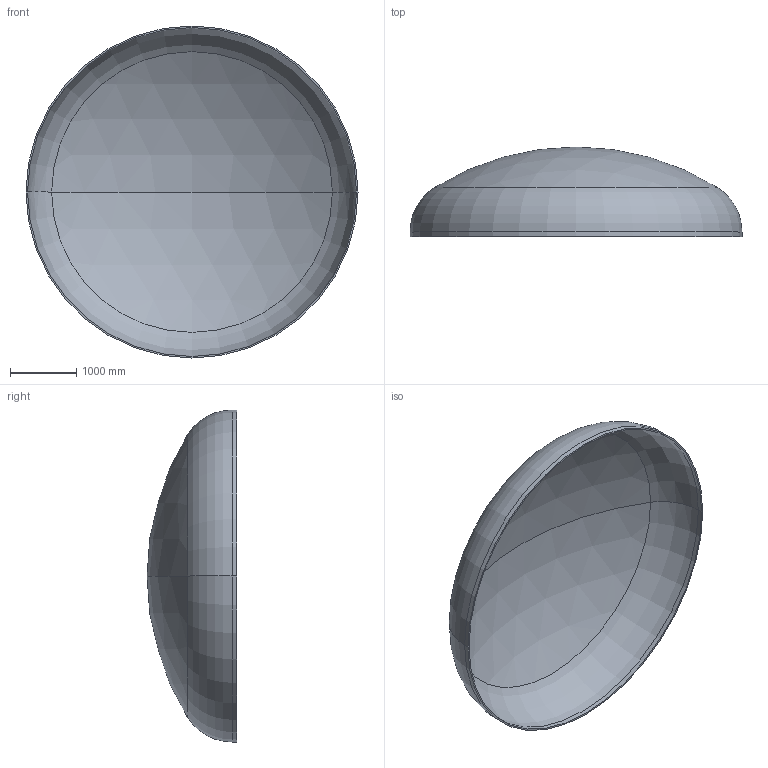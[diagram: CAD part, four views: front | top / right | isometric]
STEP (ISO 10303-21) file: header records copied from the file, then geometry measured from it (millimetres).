
FILE_DESCRIPTION (( 'STEP AP203' ), '1' );
FILE_NAME ('DIN 28013 Korbbogenform_-_Boden DIN 28013 - 5000 x 70 - I - s=23.step', '2016-07-02T00:14:03', ( '' ), ( '' ), 'SwSTEP 2.0', 'SolidWorks 2013', '' );
FILE_SCHEMA (( 'CONFIG_CONTROL_DESIGN' ));
Length unit declared in the file: millimetre
Products named in the file (1): DIN 28013 Korbbogenform_-_Boden DIN 28013 - 5000 x 70 - I - s=23
Bounding box: 5000 x 1350.91 x 5000 mm (x, y, z)
Volume: 646872058.4 mm3; surface area: 56610451 mm2
Topology: 1 solids, 1 shells, 13 faces, 24 edges, 14 vertices
Faces by surface type: torus 4, cylinder 4, sphere 4, plane 1
Entity records: 407 total; most frequent: DIRECTION 72, CARTESIAN_POINT 52, ORIENTED_EDGE 48, AXIS2_PLACEMENT_3D 34, EDGE_CURVE 24, CIRCLE 20, VERTEX_POINT 14, EDGE_LOOP 14
